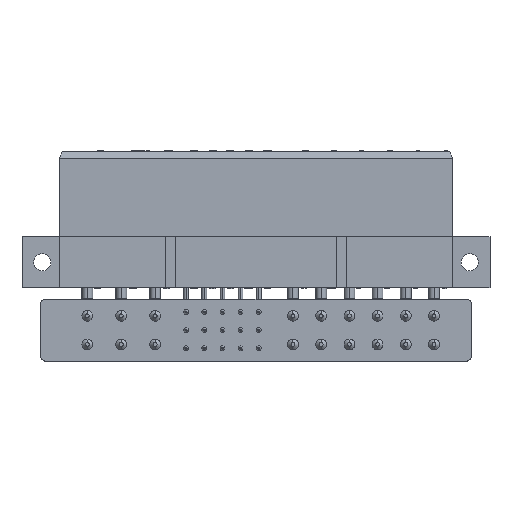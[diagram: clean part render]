
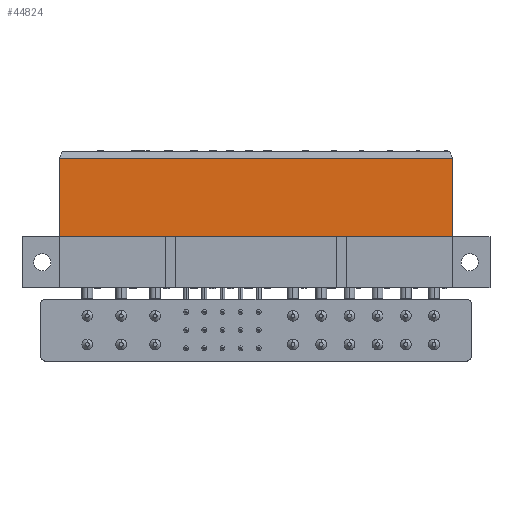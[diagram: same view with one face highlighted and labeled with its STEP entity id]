
A CAD part, front view. The second image highlights one B-rep face of the part: STEP entity #44824.
In plain terms, the highlighted planar face has unit normal (0, -1, 0).
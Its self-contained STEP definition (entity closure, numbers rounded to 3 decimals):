
#4836 = EDGE_CURVE ( 'NONE', #20665, #49186, #31815, .T. ) ;
#8176 = EDGE_LOOP ( 'NONE', ( #27736, #125018, #115153, #129828 ) ) ;
#9620 = LINE ( 'NONE', #41186, #98206 ) ;
#10272 = CARTESIAN_POINT ( 'NONE',  ( 29.32, -4.45, -12.69 ) ) ;
#12562 = LINE ( 'NONE', #102051, #41895 ) ;
#17981 = CARTESIAN_POINT ( 'NONE',  ( -29.32, -4.45, -1.02 ) ) ;
#20665 = VERTEX_POINT ( 'NONE', #17981 ) ;
#25361 = EDGE_CURVE ( 'NONE', #88440, #83346, #59971, .T. ) ;
#27736 = ORIENTED_EDGE ( 'NONE', *, *, #25361, .F. ) ;
#31661 = CARTESIAN_POINT ( 'NONE',  ( 29.32, -4.45, 0. ) ) ;
#31815 = LINE ( 'NONE', #129181, #58667 ) ;
#41186 = CARTESIAN_POINT ( 'NONE',  ( -29.32, -4.45, -12.69 ) ) ;
#41895 = VECTOR ( 'NONE', #52680, 1000. ) ;
#44824 = ADVANCED_FACE ( 'NONE', ( #75238 ), #114725, .F. ) ;
#45789 = CARTESIAN_POINT ( 'NONE',  ( 29.32, -4.45, -1.02 ) ) ;
#49186 = VERTEX_POINT ( 'NONE', #105925 ) ;
#49734 = DIRECTION ( 'NONE',  ( 1., 0., 0. ) ) ;
#52680 = DIRECTION ( 'NONE',  ( -1., 0., 0. ) ) ;
#53593 = CARTESIAN_POINT ( 'NONE',  ( -29.32, -4.45, 0. ) ) ;
#57224 = VECTOR ( 'NONE', #100092, 1000. ) ;
#58667 = VECTOR ( 'NONE', #100898, 1000. ) ;
#59971 = LINE ( 'NONE', #31661, #57224 ) ;
#64850 = EDGE_CURVE ( 'NONE', #88440, #20665, #12562, .T. ) ;
#75238 = FACE_OUTER_BOUND ( 'NONE', #8176, .T. ) ;
#83346 = VERTEX_POINT ( 'NONE', #10272 ) ;
#88440 = VERTEX_POINT ( 'NONE', #45789 ) ;
#98191 = AXIS2_PLACEMENT_3D ( 'NONE', #53593, #104221, #114088 ) ;
#98206 = VECTOR ( 'NONE', #49734, 1000. ) ;
#100092 = DIRECTION ( 'NONE',  ( 0., 0., -1. ) ) ;
#100898 = DIRECTION ( 'NONE',  ( 0., 0., -1. ) ) ;
#102051 = CARTESIAN_POINT ( 'NONE',  ( -29.32, -4.45, -1.02 ) ) ;
#104221 = DIRECTION ( 'NONE',  ( 0., 1., 0. ) ) ;
#105925 = CARTESIAN_POINT ( 'NONE',  ( -29.32, -4.45, -12.69 ) ) ;
#114088 = DIRECTION ( 'NONE',  ( -1., 0., 0. ) ) ;
#114725 = PLANE ( 'NONE',  #98191 ) ;
#115153 = ORIENTED_EDGE ( 'NONE', *, *, #4836, .T. ) ;
#125018 = ORIENTED_EDGE ( 'NONE', *, *, #64850, .T. ) ;
#129181 = CARTESIAN_POINT ( 'NONE',  ( -29.32, -4.45, 0. ) ) ;
#129584 = EDGE_CURVE ( 'NONE', #49186, #83346, #9620, .T. ) ;
#129828 = ORIENTED_EDGE ( 'NONE', *, *, #129584, .T. ) ;
